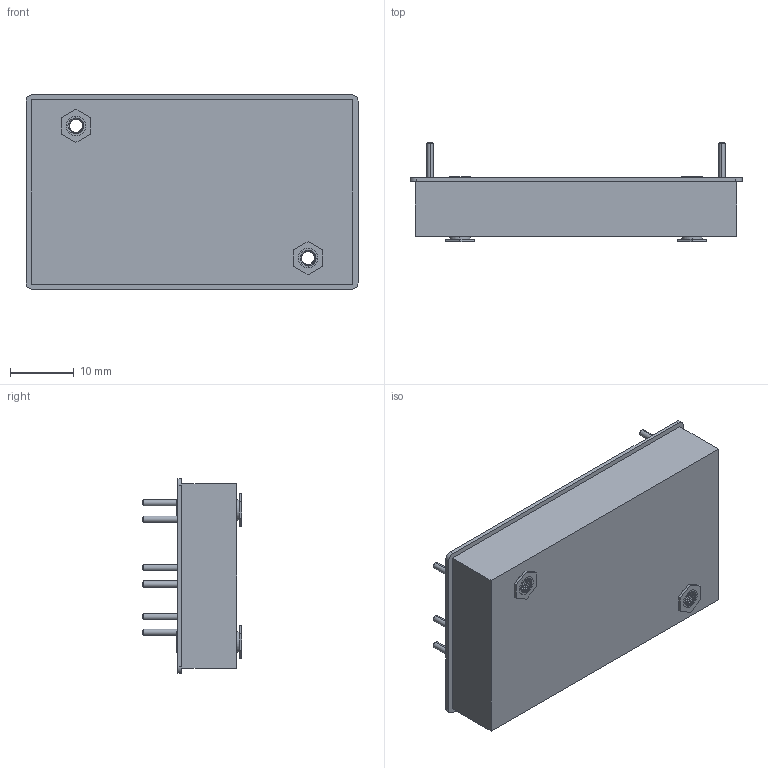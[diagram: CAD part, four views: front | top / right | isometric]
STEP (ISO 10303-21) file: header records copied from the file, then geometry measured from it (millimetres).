
FILE_DESCRIPTION (( 'STEP AP203' ), '1' );
FILE_NAME ('ECLB40W.STEP', '2017-06-01T06:53:48', ( 'cincon' ), ( '' ), 'SwSTEP 2.0', 'SolidWorks 2017', '' );
FILE_SCHEMA (( 'CONFIG_CONTROL_DESIGN' ));
Length unit declared in the file: millimetre
Products named in the file (6): ECLB40W CASE(M-C608-01-J)(M2.5銅柱); ECLB40W; ECLB40W CASE(M-C608-01-J)(內徑2.65銅柱); ECLB40W CASE(M-C608-01-J)G5130342016,G5130442016; ECLB40W BASE 100,11,09; ECLB40W PCB板示意圖 100,11,09
Assembly tree (7 placements, depth 3):
  ECLB40W
    ECLB40W CASE(M-C608-01-J)G5130342016,G5130442016
      ECLB40W CASE(M-C608-01-J)(M2.5銅柱)  x2
      ECLB40W CASE(M-C608-01-J)(內徑2.65銅柱)  x2
    ECLB40W BASE 100,11,09
    ECLB40W PCB板示意圖 100,11,09
Bounding box: 52 x 15.6 x 30.5 mm (x, y, z)
Volume: 13542.3 mm3; surface area: 8739.6 mm2
Topology: 6 solids, 6 shells, 262 faces, 648 edges, 420 vertices
Faces by surface type: cylinder 154, plane 66, cone 38, bspline 4
Entity records: 7737 total; most frequent: CARTESIAN_POINT 3263, ORIENTED_EDGE 804, DIRECTION 795, EDGE_CURVE 402, AXIS2_PLACEMENT_3D 309, VERTEX_POINT 260, EDGE_LOOP 202, VECTOR 177
